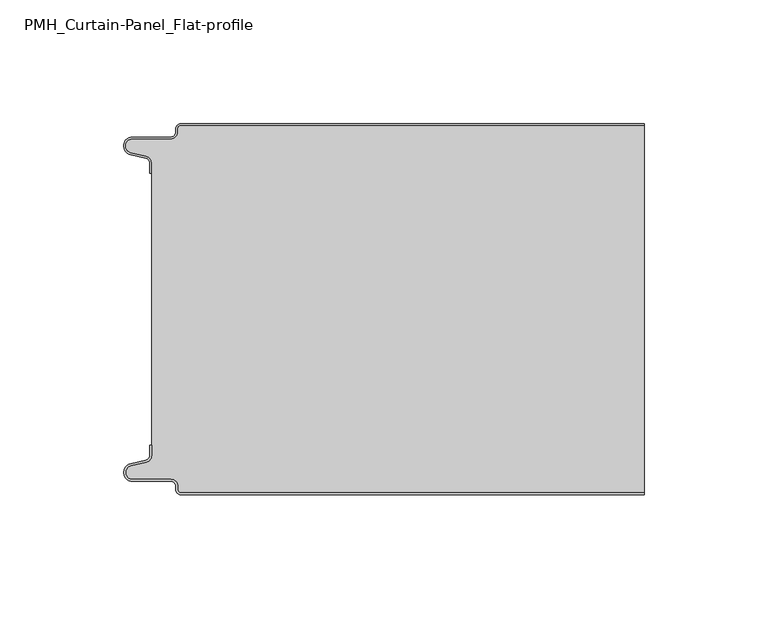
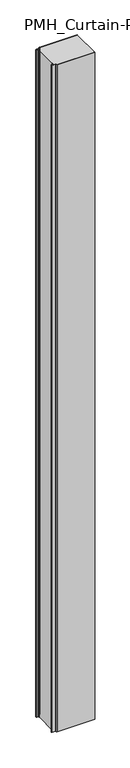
"""IFC4 building model written with IfcOpenShell, lengths in millimetres: plate geometry, PMH_Curtain-Panel_Flat-profile : ACH_PMH_Acoustic-Sectioning-Panel_150M."""

import ifcopenshell
import ifcopenshell.guid

model = None  # the IFC model being written
_history = None  # IfcOwnerHistory: only IFC2X3 demands one
_inside = {}  # id of a spatial element -> (the spatial element, [elements in it])
_under = {}  # id of a project, library or spatial element -> (it, [spatial elements below it])
_declared = {}  # id of a project -> (the project, [libraries it declares])
_typed = {}  # id of a type object -> (the type object, [elements of that type])
_made_of = {}  # id of a material, layer set ... -> (it, [elements and type objects made of it])


def new_model(schema):
    """Start an empty IFC model of exactly this schema.

    Asked for "IFC4X3", IfcOpenShell would pick the latest addendum, in which some entities
    have other attributes; the version numbers below select the first issue.
    IFC2X3 requires an IfcOwnerHistory on every rooted entity: one is made here for all.
    """
    global model, _history
    if schema == "IFC4X3":
        model = ifcopenshell.file(schema_version=(4, 3, 0, 0))
    else:
        model = ifcopenshell.file(schema=schema)
    _inside.clear()
    _under.clear()
    _declared.clear()
    _typed.clear()
    _made_of.clear()
    _history = None
    if model.schema == "IFC2X3":
        org = make("IfcOrganization", Name="unknown")
        user = make(
            "IfcPersonAndOrganization",
            ThePerson=make("IfcPerson", FamilyName="unknown"),
            TheOrganization=org,
        )
        app = make(
            "IfcApplication",
            ApplicationDeveloper=org,
            Version="unknown",
            ApplicationFullName="unknown",
            ApplicationIdentifier="unknown",
        )
        _history = make(
            "IfcOwnerHistory",
            OwningUser=user,
            OwningApplication=app,
            ChangeAction="ADDED",
            CreationDate=0,
        )
    return model


def make(cls, **values):
    """One entity of the class cls with the attributes given. An attribute that is None is left unset."""
    return model.create_entity(
        cls, **{name: value for name, value in values.items() if value is not None}
    )


def rooted(cls, **values):
    """An entity with a GlobalId (a new one), such as an element, a storey or a relation."""
    return make(cls, GlobalId=ifcopenshell.guid.new(), OwnerHistory=_history, **values)


def si_unit(unit_type, name, prefix=None):
    """IfcSIUnit, for example si_unit("LENGTHUNIT", "METRE", prefix="MILLI")."""
    return make("IfcSIUnit", UnitType=unit_type, Prefix=prefix, Name=name)


def assignment(units):
    """IfcUnitAssignment: the units of a project."""
    return None if units is None else make("IfcUnitAssignment", Units=units)


def point(xyz):
    """IfcCartesianPoint."""
    return None if xyz is None else make("IfcCartesianPoint", Coordinates=xyz)


def direction(xyz):
    """IfcDirection."""
    return None if xyz is None else make("IfcDirection", DirectionRatios=xyz)


def frame(location, z_axis=None, x_axis=None):
    """IfcAxis2Placement3D, a coordinate frame: its origin and axes. An axis left out is left unset."""
    return make(
        "IfcAxis2Placement3D",
        Location=point(location),
        Axis=direction(z_axis),
        RefDirection=direction(x_axis),
    )


def frame_2d(location, x_axis=None):
    """IfcAxis2Placement2D, a coordinate frame in the plane: its origin and x axis."""
    return make(
        "IfcAxis2Placement2D", Location=point(location), RefDirection=direction(x_axis)
    )


def origin():
    """The frame at (0, 0, 0) with its axes left unset."""
    return frame((0.0, 0.0, 0.0))


def origin_with_axes():
    """The frame at (0, 0, 0) with the z axis (0, 0, 1) and the x axis (1, 0, 0) written out."""
    return frame((0.0, 0.0, 0.0), z_axis=(0.0, 0.0, 1.0), x_axis=(1.0, 0.0, 0.0))


def place(relative_to, where):
    """IfcLocalPlacement: puts the frame where relative to a parent placement (None: the world)."""
    return make(
        "IfcLocalPlacement", PlacementRelTo=relative_to, RelativePlacement=where
    )


def context(
    kind, dimensions, precision=None, world=None, true_north=None, identifier=None
):
    """IfcGeometricRepresentationContext, for example the 3D "Model" context."""
    return make(
        "IfcGeometricRepresentationContext",
        ContextIdentifier=identifier,
        ContextType=kind,
        CoordinateSpaceDimension=dimensions,
        Precision=precision,
        WorldCoordinateSystem=world,
        TrueNorth=true_north,
    )


def project(units=None, contexts=None):
    """IfcProject with its units and contexts."""
    return rooted(
        "IfcProject",
        Name="project",
        RepresentationContexts=contexts,
        UnitsInContext=assignment(units),
    )


def spatial(cls, under=None, at=None, **own):
    """A site, building, storey or space (cls), placed at a placement, below another one or the project."""
    s = rooted(cls, ObjectPlacement=at, **own)
    if under is not None:
        _under.setdefault(under.id(), (under, []))[1].append(s)
    return s


def polyline(points):
    """IfcPolyline through the points."""
    return make("IfcPolyline", Points=[point(p) for p in points])


def circle_curve(where, radius):
    """IfcCircle in the frame where."""
    return make("IfcCircle", Position=where, Radius=radius)


def trimmed(basis, trim1, trim2, sense, master):
    """IfcTrimmedCurve: the piece of a basis curve between two trims."""
    return make(
        "IfcTrimmedCurve",
        BasisCurve=basis,
        Trim1=trim1,
        Trim2=trim2,
        SenseAgreement=sense,
        MasterRepresentation=master,
    )


def segment(curve, same_sense, transition):
    """IfcCompositeCurveSegment."""
    return make(
        "IfcCompositeCurveSegment",
        Transition=transition,
        SameSense=same_sense,
        ParentCurve=curve,
    )


def composite_curve(segments, self_intersect=None):
    """IfcCompositeCurve: segments joined end to end."""
    return make("IfcCompositeCurve", Segments=segments, SelfIntersect=self_intersect)


def outline(outer, holes=None, kind="AREA"):
    """IfcArbitraryClosedProfileDef: a profile drawn as a closed curve; with holes, ...WithVoids."""
    if holes is None:
        return make("IfcArbitraryClosedProfileDef", ProfileType=kind, OuterCurve=outer)
    return make(
        "IfcArbitraryProfileDefWithVoids",
        ProfileType=kind,
        OuterCurve=outer,
        InnerCurves=holes,
    )


def extrude(swept, where, along, depth):
    """IfcExtrudedAreaSolid: the profile swept, set in the frame where, extruded along a direction by depth."""
    return make(
        "IfcExtrudedAreaSolid",
        SweptArea=swept,
        Position=where,
        ExtrudedDirection=direction(along),
        Depth=depth,
    )


def shape(context_of_items, identifier, shape_type, items):
    """IfcShapeRepresentation: the items that make up one representation, for example the "Body"."""
    return make(
        "IfcShapeRepresentation",
        ContextOfItems=context_of_items,
        RepresentationIdentifier=identifier,
        RepresentationType=shape_type,
        Items=items,
    )


def source(mapping_origin, context_of_items, identifier, shape_type, items):
    """IfcRepresentationMap: a shape defined once, which mapped items show again and again."""
    return make(
        "IfcRepresentationMap",
        MappingOrigin=mapping_origin,
        MappedRepresentation=shape(context_of_items, identifier, shape_type, items),
    )


def transform(
    local_origin,
    x_axis=None,
    y_axis=None,
    z_axis=None,
    scale=None,
    scale2=None,
    scale3=None,
    uniform=True,
):
    """IfcCartesianTransformationOperator3D, or its non-uniform kind. x_axis, y_axis, z_axis: its Axis1, 2, 3."""
    if uniform:
        return make(
            "IfcCartesianTransformationOperator3D",
            Axis1=direction(x_axis),
            Axis2=direction(y_axis),
            LocalOrigin=point(local_origin),
            Scale=scale,
            Axis3=direction(z_axis),
        )
    return make(
        "IfcCartesianTransformationOperator3DnonUniform",
        Axis1=direction(x_axis),
        Axis2=direction(y_axis),
        LocalOrigin=point(local_origin),
        Scale=scale,
        Axis3=direction(z_axis),
        Scale2=scale2,
        Scale3=scale3,
    )


def mapped(mapping_source, mapping_target):
    """IfcMappedItem: shows the shape of a source again, moved by a transform."""
    return make(
        "IfcMappedItem", MappingSource=mapping_source, MappingTarget=mapping_target
    )


def made_of(thing, what):
    """Note that an element or type object is made of a material, layer set ...; save() writes the relation."""
    if what is not None:
        _made_of.setdefault(what.id(), (what, []))[1].append(thing)
    return thing


def element(
    cls,
    number,
    at=None,
    inside=None,
    cuts=None,
    type_object=None,
    material=None,
    context=None,
    identifier="Body",
    shape_type=None,
    held_by="IfcProductDefinitionShape",
    body=None,
    shapes=None,
    **own,
):
    """One element of the class cls, such as IfcWall. Its Tag is "e" and its number.

    at: its placement. inside: the storey or other place that contains it. cuts: it is an
    opening in that element (IfcRelVoidsElement). A single representation is given by context,
    identifier, shape_type and body (its items); several are given by shapes. held_by: the class
    of the entity that holds the representations. save() writes the other relations.
    """
    e = rooted(cls, Tag="e%d" % number, ObjectPlacement=at, **own)
    if body is not None:
        shapes = [shape(context, identifier, shape_type, body)]
    if shapes is not None:
        e.Representation = make(held_by, Representations=shapes)
    if inside is not None:
        _inside.setdefault(inside.id(), (inside, []))[1].append(e)
    if cuts is not None:
        rooted(
            "IfcRelVoidsElement", RelatingBuildingElement=cuts, RelatedOpeningElement=e
        )
    if type_object is not None:
        _typed.setdefault(type_object.id(), (type_object, []))[1].append(e)
    return made_of(e, material)


def aggregate(whole, parts):
    """IfcRelAggregates: a whole, such as a stair, and the parts it consists of."""
    return rooted("IfcRelAggregates", RelatingObject=whole, RelatedObjects=parts)


def save(model, path):
    """Write the relations noted so far, then the file.

    IfcRelAggregates (storeys below a building ...), IfcRelContainedInSpatialStructure (elements
    in a storey), IfcRelDefinesByType, IfcRelAssociatesMaterial and IfcRelDeclares: one each for
    every whole, place, type object, material and project.
    """
    for whole, parts in _under.values():
        aggregate(whole, parts)
    for where, things in _inside.values():
        rooted(
            "IfcRelContainedInSpatialStructure",
            RelatedElements=things,
            RelatingStructure=where,
        )
    for kind, things in _typed.values():
        rooted("IfcRelDefinesByType", RelatedObjects=things, RelatingType=kind)
    for what, things in _made_of.values():
        rooted("IfcRelAssociatesMaterial", RelatedObjects=things, RelatingMaterial=what)
    for by, libraries in _declared.values():
        rooted("IfcRelDeclares", RelatingContext=by, RelatedDefinitions=libraries)
    model.write(path)


def pmh_curtain_panel_flat_profile_04d264a5(model_context):
    return source(origin(), model_context, "Body", "SweptSolid", [
        extrude(outline(composite_curve([segment(polyline([(-87.4, 0.8), (100.0, 0.8), (100.0, 0.0), (-87.4, 0.0)]), True, "CONTINUOUS"), segment(trimmed(circle_curve(frame_2d((-87.4, 2.0)), 2.0), [point((-87.4, 0.0))], [point((-89.4, 2.0))], False, "CARTESIAN"), True, "CONTINUOUS"), segment(polyline([(-89.4, 2.0), (-89.4, 3.4)]), True, "CONTINUOUS"), segment(trimmed(circle_curve(frame_2d((-91.4, 3.4)), 2.0), [point((-89.4, 3.4))], [point((-91.4, 5.4))], True, "CARTESIAN"), True, "CONTINUOUS"), segment(polyline([(-91.4, 5.4), (-106.9, 5.4)]), True, "CONTINUOUS"), segment(trimmed(circle_curve(frame_2d((-106.9, 9.0)), 3.6), [point((-106.9, 5.4))], [point((-107.7098239, 12.5077322))], False, "CARTESIAN"), True, "CONTINUOUS"), segment(polyline([(-107.7098239, 12.5077322), (-101.5500979, 13.929817)]), True, "CONTINUOUS"), segment(trimmed(circle_curve(frame_2d((-102.0, 15.878557)), 2.0), [point((-101.5500979, 13.929817))], [point((-100.0, 15.878557))], True, "CARTESIAN"), True, "CONTINUOUS"), segment(polyline([(-100.0, 15.878557), (-100.0, 20.0), (-99.2, 20.0), (-99.2, 15.878557)]), True, "CONTINUOUS"), segment(trimmed(circle_curve(frame_2d((-102.0, 15.878557)), 2.8), [point((-99.2, 15.878557))], [point((-101.370137, 13.1503208))], False, "CARTESIAN"), True, "CONTINUOUS"), segment(polyline([(-101.370137, 13.1503208), (-107.529863, 11.728236)]), True, "CONTINUOUS"), segment(trimmed(circle_curve(frame_2d((-106.9, 9.0)), 2.8), [point((-107.529863, 11.728236))], [point((-106.9, 6.2))], True, "CARTESIAN"), True, "CONTINUOUS"), segment(polyline([(-106.9, 6.2), (-91.4, 6.2)]), True, "CONTINUOUS"), segment(trimmed(circle_curve(frame_2d((-91.4, 3.4)), 2.8), [point((-91.4, 6.2))], [point((-88.6, 3.4))], False, "CARTESIAN"), True, "CONTINUOUS"), segment(polyline([(-88.6, 3.4), (-88.6, 2.0)]), True, "CONTINUOUS"), segment(trimmed(circle_curve(frame_2d((-87.4, 2.0)), 1.2), [point((-88.6, 2.0))], [point((-87.4, 0.8))], True, "CARTESIAN"), True, "CONTINUOUS")], self_intersect=False)), origin_with_axes(), (0.0, 0.0, 1.0), 3500.0),
        extrude(outline(composite_curve([segment(trimmed(circle_curve(frame_2d((-102.0, 134.1214426)), 2.8), [point((-99.2, 134.1214426))], [point((-101.370137, 136.8496788))], True, "CARTESIAN"), True, "CONTINUOUS"), segment(polyline([(-101.370137, 136.8496788), (-107.5298631, 138.2717638)]), True, "CONTINUOUS"), segment(trimmed(circle_curve(frame_2d((-106.9, 141.0)), 2.8), [point((-107.5298631, 138.2717638))], [point((-106.9, 143.8))], False, "CARTESIAN"), True, "CONTINUOUS"), segment(polyline([(-106.9, 143.8), (-91.4000001, 143.8)]), True, "CONTINUOUS"), segment(trimmed(circle_curve(frame_2d((-91.4000001, 146.6)), 2.8), [point((-91.4000001, 143.8))], [point((-88.6000001, 146.6))], True, "CARTESIAN"), True, "CONTINUOUS"), segment(polyline([(-88.6000001, 146.6), (-88.6000001, 148.0)]), True, "CONTINUOUS"), segment(trimmed(circle_curve(frame_2d((-87.4000001, 148.0)), 1.2), [point((-88.6000001, 148.0))], [point((-87.4000001, 149.2))], False, "CARTESIAN"), True, "CONTINUOUS"), segment(polyline([(-87.4000001, 149.2), (100.0, 149.2), (100.0, 0.8), (-87.4000001, 0.8)]), True, "CONTINUOUS"), segment(trimmed(circle_curve(frame_2d((-87.4000001, 2.0)), 1.2), [point((-87.4000001, 0.8))], [point((-88.6000001, 2.0))], False, "CARTESIAN"), True, "CONTINUOUS"), segment(polyline([(-88.6000001, 2.0), (-88.6000001, 3.4)]), True, "CONTINUOUS"), segment(trimmed(circle_curve(frame_2d((-91.4000001, 3.4)), 2.8), [point((-88.6000001, 3.4))], [point((-91.4000001, 6.2))], True, "CARTESIAN"), True, "CONTINUOUS"), segment(polyline([(-91.4000001, 6.2), (-106.9, 6.2)]), True, "CONTINUOUS"), segment(trimmed(circle_curve(frame_2d((-106.9, 9.0)), 2.8), [point((-106.9, 6.2))], [point((-107.5298631, 11.7282362))], False, "CARTESIAN"), True, "CONTINUOUS"), segment(polyline([(-107.5298631, 11.7282362), (-101.370137, 13.1503212)]), True, "CONTINUOUS"), segment(trimmed(circle_curve(frame_2d((-102.0, 15.8785573)), 2.8), [point((-101.370137, 13.1503212))], [point((-99.2, 15.8785573))], True, "CARTESIAN"), True, "CONTINUOUS"), segment(polyline([(-99.2, 15.8785573), (-99.2, 134.1214426)]), True, "CONTINUOUS")], self_intersect=False)), origin_with_axes(), (0.0, 0.0, 1.0), 3500.0),
        extrude(outline(composite_curve([segment(polyline([(-87.4, 150.0), (100.0, 150.0), (100.0, 149.2), (-87.4, 149.2)]), True, "CONTINUOUS"), segment(trimmed(circle_curve(frame_2d((-87.4, 148.0)), 1.2), [point((-87.4, 149.2))], [point((-88.6, 148.0))], True, "CARTESIAN"), True, "CONTINUOUS"), segment(polyline([(-88.6, 148.0), (-88.6, 146.6)]), True, "CONTINUOUS"), segment(trimmed(circle_curve(frame_2d((-91.4, 146.6)), 2.8), [point((-88.6, 146.6))], [point((-91.4, 143.8))], False, "CARTESIAN"), True, "CONTINUOUS"), segment(polyline([(-91.4, 143.8), (-106.9, 143.8)]), True, "CONTINUOUS"), segment(trimmed(circle_curve(frame_2d((-106.9, 141.0)), 2.8), [point((-106.9, 143.8))], [point((-107.529863, 138.2717638))], True, "CARTESIAN"), True, "CONTINUOUS"), segment(polyline([(-107.529863, 138.2717638), (-101.370137, 136.849679)]), True, "CONTINUOUS"), segment(trimmed(circle_curve(frame_2d((-102.0, 134.121443)), 2.8), [point((-101.370137, 136.849679))], [point((-99.2, 134.121443))], False, "CARTESIAN"), True, "CONTINUOUS"), segment(polyline([(-99.2, 134.121443), (-99.2, 130.0), (-100.0, 130.0), (-100.0, 134.121443)]), True, "CONTINUOUS"), segment(trimmed(circle_curve(frame_2d((-102.0, 134.121443)), 2.0), [point((-100.0, 134.121443))], [point((-101.5500978, 136.0701831))], True, "CARTESIAN"), True, "CONTINUOUS"), segment(polyline([(-101.5500978, 136.0701831), (-107.7098239, 137.492268)]), True, "CONTINUOUS"), segment(trimmed(circle_curve(frame_2d((-106.9, 141.0)), 3.6), [point((-107.7098239, 137.492268))], [point((-106.9, 144.6))], False, "CARTESIAN"), True, "CONTINUOUS"), segment(polyline([(-106.9, 144.6), (-91.4, 144.6)]), True, "CONTINUOUS"), segment(trimmed(circle_curve(frame_2d((-91.4, 146.6)), 2.0), [point((-91.4, 144.6))], [point((-89.4, 146.6))], True, "CARTESIAN"), True, "CONTINUOUS"), segment(polyline([(-89.4, 146.6), (-89.4, 148.0)]), True, "CONTINUOUS"), segment(trimmed(circle_curve(frame_2d((-87.4, 148.0)), 2.0), [point((-89.4, 148.0))], [point((-87.4, 150.0))], False, "CARTESIAN"), True, "CONTINUOUS")], self_intersect=False)), origin_with_axes(), (0.0, 0.0, 1.0), 3500.0),
    ])


if __name__ == "__main__":
    model = new_model("IFC4")
    model_context = context("Model", 3, world=origin())
    ifc_project = project(units=[si_unit("LENGTHUNIT", "METRE", prefix="MILLI")], contexts=[model_context])
    site = spatial("IfcSite", under=ifc_project)
    building = spatial("IfcBuilding", under=site)
    placement = place(None, origin())
    pmh_curtain_panel_flat_profile_shape = pmh_curtain_panel_flat_profile_04d264a5(model_context)
    element("IfcPlate", 1, ObjectType="PMH_Curtain-Panel_Flat-profile : ACH_PMH_Acoustic-Sectioning-Panel_150M", at=placement, inside=building, context=model_context, shape_type="MappedRepresentation", body=[
        mapped(pmh_curtain_panel_flat_profile_shape, transform((0.0, 0.0, 0.0), x_axis=(1.0, 0.0, 0.0), y_axis=(0.0, 1.0, 0.0), z_axis=(0.0, 0.0, 1.0))),
    ])
    save(model, "model.ifc")
